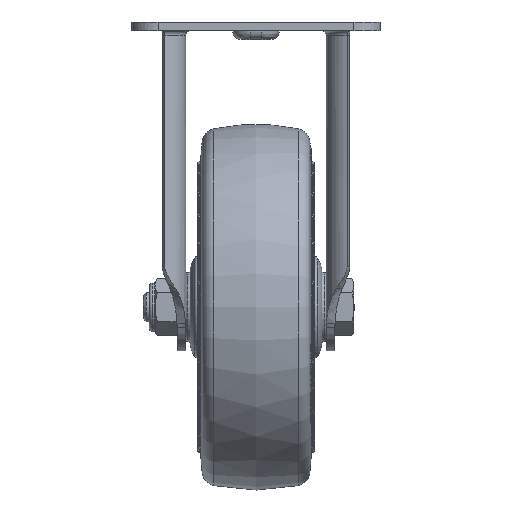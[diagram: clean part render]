
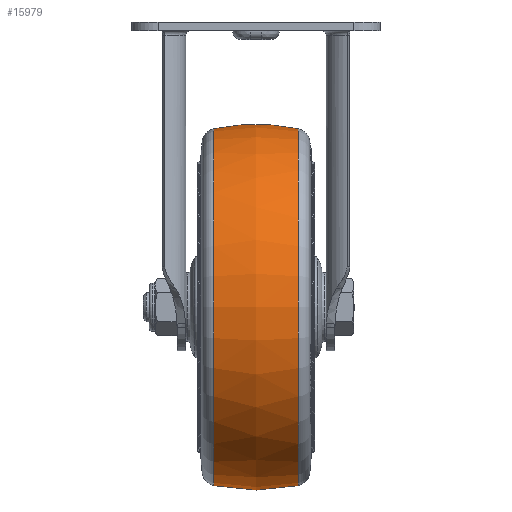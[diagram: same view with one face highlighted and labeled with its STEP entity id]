
A CAD part, left-side view. The second image highlights one B-rep face of the part: STEP entity #15979.
In plain terms, the highlighted free-form (B-spline) face has degree [2, 2] with [3, 9] control points.
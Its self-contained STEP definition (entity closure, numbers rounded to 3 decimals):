
#106=(
BOUNDED_SURFACE()
B_SPLINE_SURFACE(2,2,((#27344,#27345,#27346,#27347,#27348,#27349,#27350,
#27351,#27352),(#27353,#27354,#27355,#27356,#27357,#27358,#27359,#27360,
#27361),(#27362,#27363,#27364,#27365,#27366,#27367,#27368,#27369,#27370)),
 .UNSPECIFIED.,.F.,.T.,.F.)
B_SPLINE_SURFACE_WITH_KNOTS((3,3),(3,2,2,2,3),(-0.208,0.208),
(-3.142,-1.571,0.,1.571,3.142),
 .UNSPECIFIED.)
GEOMETRIC_REPRESENTATION_ITEM()
RATIONAL_B_SPLINE_SURFACE(((1.,0.707,1.,0.707,1.,
0.707,1.,0.707,1.),(0.978,0.692,
0.978,0.692,0.978,0.692,
0.978,0.692,0.978),(1.,0.707,
1.,0.707,1.,0.707,1.,0.707,1.)))
REPRESENTATION_ITEM('')
SURFACE()
);
#4366=FACE_OUTER_BOUND('',#5323,.T.);
#5323=EDGE_LOOP('',(#12485,#12486,#12487,#12488));
#5881=CIRCLE('',#16753,60.992);
#5882=CIRCLE('',#16754,70.);
#5883=CIRCLE('',#16755,60.992);
#6867=VERTEX_POINT('',#27371);
#6868=VERTEX_POINT('',#27373);
#8880=EDGE_CURVE('',#6867,#6867,#5881,.T.);
#8881=EDGE_CURVE('',#6867,#6868,#5882,.T.);
#8882=EDGE_CURVE('',#6868,#6868,#5883,.T.);
#12485=ORIENTED_EDGE('',*,*,#8880,.F.);
#12486=ORIENTED_EDGE('',*,*,#8881,.T.);
#12487=ORIENTED_EDGE('',*,*,#8882,.T.);
#12488=ORIENTED_EDGE('',*,*,#8881,.F.);
#15979=ADVANCED_FACE('',(#4366),#106,.F.);
#16753=AXIS2_PLACEMENT_3D('',#27372,#18183,#18184);
#16754=AXIS2_PLACEMENT_3D('',#27374,#18185,#18186);
#16755=AXIS2_PLACEMENT_3D('',#27375,#18187,#18188);
#18183=DIRECTION('center_axis',(0.,-1.,0.));
#18184=DIRECTION('ref_axis',(0.,0.,
-1.));
#18185=DIRECTION('center_axis',(-1.,0.,0.));
#18186=DIRECTION('ref_axis',(0.,0.,
1.));
#18187=DIRECTION('center_axis',(0.,-1.,0.));
#18188=DIRECTION('ref_axis',(0.,0.,
-1.));
#27344=CARTESIAN_POINT('Ctrl Pts',(0.,14.451,
-36.508));
#27345=CARTESIAN_POINT('Ctrl Pts',(-60.992,14.451,-36.508));
#27346=CARTESIAN_POINT('Ctrl Pts',(-60.992,14.451,-97.5));
#27347=CARTESIAN_POINT('Ctrl Pts',(-60.992,14.451,-158.492));
#27348=CARTESIAN_POINT('Ctrl Pts',(0.,14.451,
-158.492));
#27349=CARTESIAN_POINT('Ctrl Pts',(60.992,14.451,-158.492));
#27350=CARTESIAN_POINT('Ctrl Pts',(60.992,14.451,-97.5));
#27351=CARTESIAN_POINT('Ctrl Pts',(60.992,14.451,-36.508));
#27352=CARTESIAN_POINT('Ctrl Pts',(0.,14.451,
-36.508));
#27353=CARTESIAN_POINT('Ctrl Pts',(0.,0.,
-33.459));
#27354=CARTESIAN_POINT('Ctrl Pts',(-64.041,0.,
-33.459));
#27355=CARTESIAN_POINT('Ctrl Pts',(-64.041,0.,
-97.5));
#27356=CARTESIAN_POINT('Ctrl Pts',(-64.041,0.,
-161.541));
#27357=CARTESIAN_POINT('Ctrl Pts',(0.,0.,
-161.541));
#27358=CARTESIAN_POINT('Ctrl Pts',(64.041,0.,
-161.541));
#27359=CARTESIAN_POINT('Ctrl Pts',(64.041,0.,
-97.5));
#27360=CARTESIAN_POINT('Ctrl Pts',(64.041,0.,
-33.459));
#27361=CARTESIAN_POINT('Ctrl Pts',(0.,0.,
-33.459));
#27362=CARTESIAN_POINT('Ctrl Pts',(0.,-14.451,
-36.508));
#27363=CARTESIAN_POINT('Ctrl Pts',(-60.992,-14.451,
-36.508));
#27364=CARTESIAN_POINT('Ctrl Pts',(-60.992,-14.451,
-97.5));
#27365=CARTESIAN_POINT('Ctrl Pts',(-60.992,-14.451,
-158.492));
#27366=CARTESIAN_POINT('Ctrl Pts',(0.,-14.451,
-158.492));
#27367=CARTESIAN_POINT('Ctrl Pts',(60.992,-14.451,-158.492));
#27368=CARTESIAN_POINT('Ctrl Pts',(60.992,-14.451,-97.5));
#27369=CARTESIAN_POINT('Ctrl Pts',(60.992,-14.451,-36.508));
#27370=CARTESIAN_POINT('Ctrl Pts',(0.,-14.451,
-36.508));
#27371=CARTESIAN_POINT('',(0.,-14.451,-36.508));
#27372=CARTESIAN_POINT('Origin',(0.,-14.451,
-97.5));
#27373=CARTESIAN_POINT('',(0.,14.451,-36.508));
#27374=CARTESIAN_POINT('Origin',(0.,0.,
-105.));
#27375=CARTESIAN_POINT('Origin',(0.,14.451,
-97.5));
